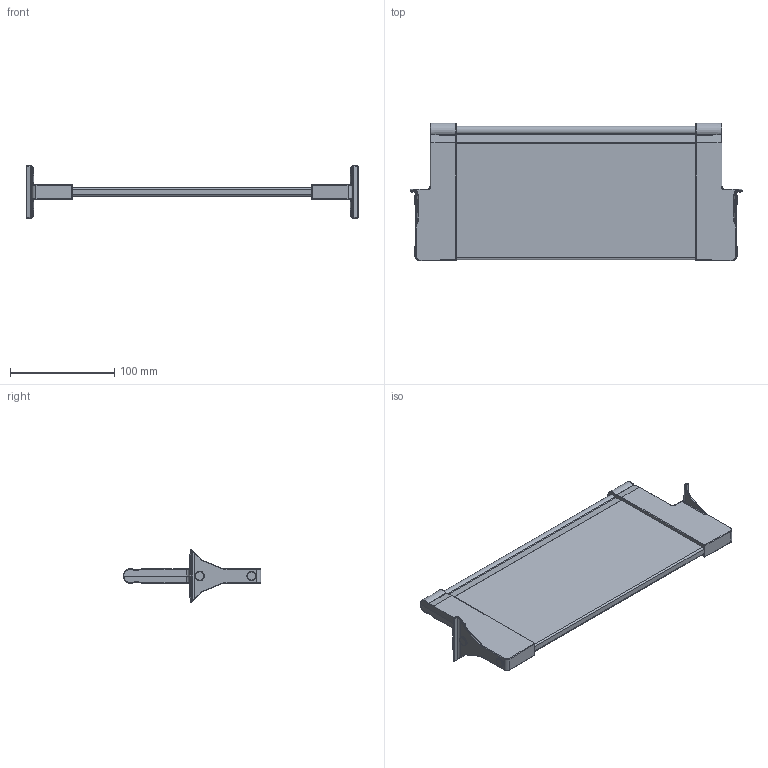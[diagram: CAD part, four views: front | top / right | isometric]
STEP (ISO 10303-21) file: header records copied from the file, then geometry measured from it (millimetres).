
FILE_DESCRIPTION (( 'STEP AP214' ), '1' );
FILE_NAME ('Nova-Pro P622 Querteiler H90Nova PRO Querteiler_H90_KAB 400_16.step', '2009-11-06T06:59:19', ( 'Waldinger Reinhard' ), ( 'Grass GmbH' ), 'SwSTEP 2.0', 'SolidWorks 2009', '' );
FILE_SCHEMA (( 'AUTOMOTIVE_DESIGN' ));
Length unit declared in the file: millimetre
Products named in the file (1): Nova-Pro P622 Querteiler H90Nova PRO Querteiler_H90_KAB 400_16
Bounding box: 318.1 x 132 x 49.97 mm (x, y, z)
Volume: 350172 mm3; surface area: 88078.2 mm2
Topology: 1 solids, 1 shells, 248 faces, 578 edges, 334 vertices
Faces by surface type: cylinder 107, bspline 64, plane 51, torus 12, sphere 12, cone 2
Entity records: 11002 total; most frequent: CARTESIAN_POINT 5879, ORIENTED_EDGE 1148, DIRECTION 966, EDGE_CURVE 574, AXIS2_PLACEMENT_3D 369, VERTEX_POINT 334, EDGE_LOOP 254, FACE_OUTER_BOUND 248
